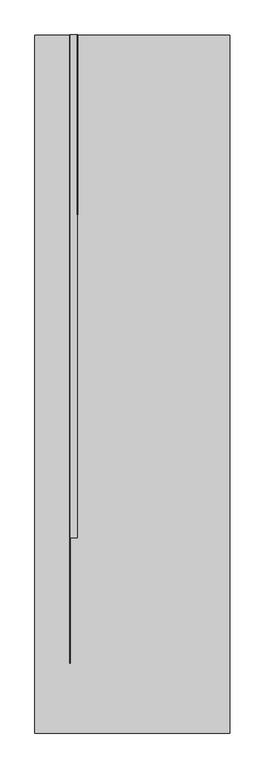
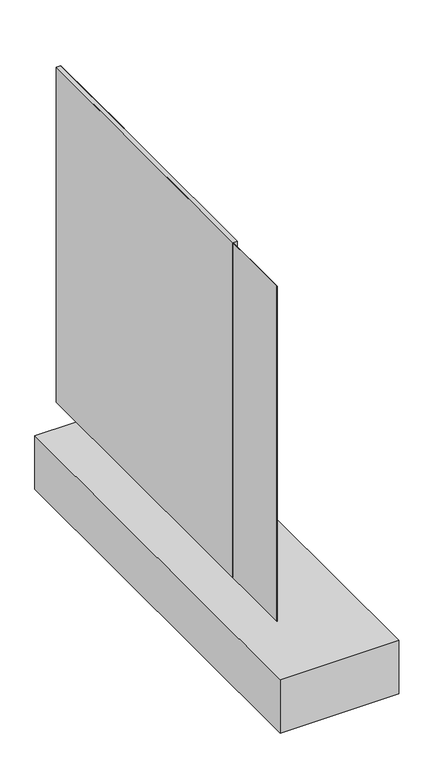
"""IFC4 building model written with IfcOpenShell, lengths in millimetres: proxy geometry, IMPER:IMPER:433934 : IMPER:IMPER:433934."""

from ifc_helpers import new_model, si_unit, frame, origin, place, context, project, spatial, polyline, outline, extrude, source, transform, mapped, element, save


def generic_models_b173d579(model_context):
    return source(origin(), model_context, "Body", "SweptSolid", [
        extrude(outline(polyline([(-184.0273574, 874.3260192), (-183.0273574, 874.3260192), (-183.0273574, 102.1267847), (-184.0273574, 102.1267847), (-184.0273574, 874.3260192)])), frame((0.0, 0.0, -2.523798), z_axis=(0.0, 0.0, 1.0), x_axis=(1.0, 0.0, 0.0)), (0.0, 0.0, 1.0), 2500.0),
        extrude(outline(polyline([(-184.0273574, -625.3115599), (-184.0273574, -1285.6739808), (-185.0386675, -1285.6739808), (-185.0386675, -625.3115599), (-184.0273574, -625.3115599)])), frame((0.0, 0.0, -2.523798), z_axis=(0.0, 0.0, 1.0), x_axis=(1.0, 0.0, 0.0)), (0.0, 0.0, 1.0), 599.0663924),
        extrude(outline(polyline([(-185.0386675, 874.3260192), (-184.0273574, 874.3260192), (-184.0273574, -625.3115599), (-185.0386675, -625.3115599), (-185.0386675, 874.3260192)])), frame((0.0, 0.0, -2.523798), z_axis=(0.0, 0.0, 1.0), x_axis=(1.0, 0.0, 0.0)), (0.0, 0.0, 1.0), 1000.0),
        extrude(outline(polyline([(-216.0499776, 874.3260192), (-185.0386675, 874.3260192), (-185.0386675, -1285.6739808), (-216.0499776, -1285.6739808), (-216.0499776, 874.3260192)])), frame((0.0, 0.0, -2.523798), z_axis=(0.0, 0.0, 1.0), x_axis=(1.0, 0.0, 0.0)), (0.0, 0.0, 1.0), 2500.0),
        extrude(outline(polyline([(-217.0499776, 874.3260192), (-216.0499776, 874.3260192), (-216.0499776, -1825.6739808), (-217.0499776, -1825.6739808), (-217.0499776, 874.3260192)])), frame((0.0, 0.0, -2.523798), z_axis=(0.0, 0.0, 1.0), x_axis=(1.0, 0.0, 0.0)), (0.0, 0.0, 1.0), 2500.0),
        extrude(outline(polyline([(469.984728, 874.3260192), (469.984728, -2125.6739808), (-367.0499776, -2125.6739808), (-367.0499776, 874.3260192), (469.984728, 874.3260192)])), frame((0.0, 0.0, -602.523798), z_axis=(0.0, 0.0, 1.0), x_axis=(1.0, 0.0, 0.0)), (0.0, 0.0, 1.0), 400.0),
    ])


if __name__ == "__main__":
    model = new_model("IFC4")
    model_context = context("Model", 3, world=origin())
    ifc_project = project(units=[si_unit("LENGTHUNIT", "METRE", prefix="MILLI")], contexts=[model_context])
    site = spatial("IfcSite", under=ifc_project)
    building = spatial("IfcBuilding", under=site)
    placement = place(None, origin())
    generic_models_shape = generic_models_b173d579(model_context)
    element("IfcBuildingElementProxy", 1, Name="IMPER:IMPER:433934 : IMPER:IMPER:433934", ObjectType="IMPER:IMPER:433934 : IMPER:IMPER:433934", at=placement, inside=building, context=model_context, shape_type="MappedRepresentation", body=[
        mapped(generic_models_shape, transform((0.0, 0.0, 0.0), x_axis=(1.0, 0.0, 0.0), y_axis=(0.0, 1.0, 0.0), z_axis=(0.0, 0.0, 1.0))),
    ])
    save(model, "model.ifc")
